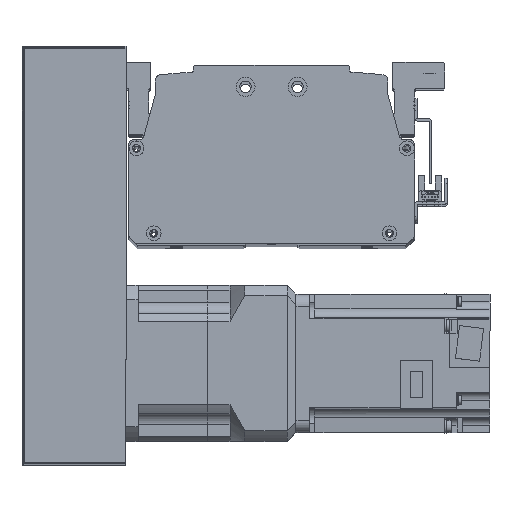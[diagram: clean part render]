
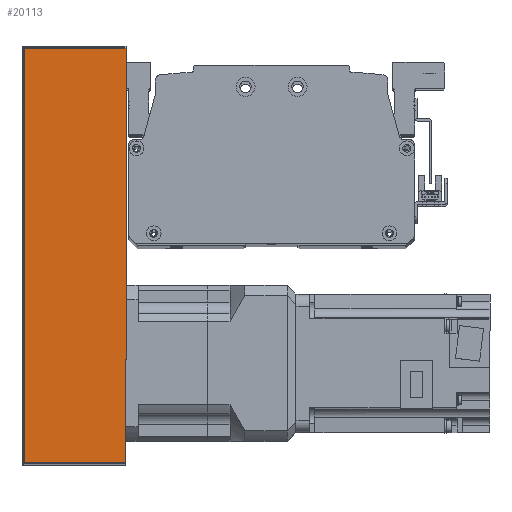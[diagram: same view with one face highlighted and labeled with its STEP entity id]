
A CAD part, top view. The second image highlights one B-rep face of the part: STEP entity #20113.
In plain terms, the highlighted planar face has unit normal (0, 0, 1) as drawn and (0, 1, 0) by its records, which use the part's own axes.
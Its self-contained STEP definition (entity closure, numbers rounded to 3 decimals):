
#593=PLANE('',#21943);
#1721=LINE('',#32325,#3381);
#1743=LINE('',#32418,#3403);
#1745=LINE('',#32428,#3405);
#1747=LINE('',#32431,#3407);
#3381=VECTOR('',#26164,10.);
#3403=VECTOR('',#26284,10.);
#3405=VECTOR('',#26298,10.);
#3407=VECTOR('',#26302,10.);
#5402=FACE_OUTER_BOUND('',#6842,.T.);
#6842=EDGE_LOOP('',(#16328,#16329,#16330,#16331));
#9724=VERTEX_POINT('',#32322);
#9725=VERTEX_POINT('',#32324);
#9746=VERTEX_POINT('',#32412);
#9749=VERTEX_POINT('',#32424);
#12090=EDGE_CURVE('',#9724,#9725,#1721,.T.);
#12138=EDGE_CURVE('',#9746,#9724,#1743,.T.);
#12143=EDGE_CURVE('',#9725,#9749,#1745,.T.);
#12145=EDGE_CURVE('',#9749,#9746,#1747,.T.);
#16328=ORIENTED_EDGE('',*,*,#12138,.F.);
#16329=ORIENTED_EDGE('',*,*,#12145,.F.);
#16330=ORIENTED_EDGE('',*,*,#12143,.F.);
#16331=ORIENTED_EDGE('',*,*,#12090,.F.);
#20113=ADVANCED_FACE('',(#5402),#593,.T.);
#21943=AXIS2_PLACEMENT_3D('',#32437,#26310,#26311);
#26164=DIRECTION('',(-1.,0.,0.));
#26284=DIRECTION('',(0.,0.,1.));
#26298=DIRECTION('',(0.,0.,-1.));
#26302=DIRECTION('',(1.,0.,0.));
#26310=DIRECTION('center_axis',(0.,1.,0.));
#26311=DIRECTION('ref_axis',(-1.,0.,0.));
#32322=CARTESIAN_POINT('',(120.,51.,30.));
#32324=CARTESIAN_POINT('',(-120.,51.,30.));
#32325=CARTESIAN_POINT('',(-121.,51.,30.));
#32412=CARTESIAN_POINT('',(120.,51.,-29.));
#32418=CARTESIAN_POINT('',(120.,51.,0.));
#32424=CARTESIAN_POINT('',(-120.,51.,-29.));
#32428=CARTESIAN_POINT('',(-120.,51.,0.));
#32431=CARTESIAN_POINT('',(60.5,51.,-29.));
#32437=CARTESIAN_POINT('Origin',(121.,51.,0.));
